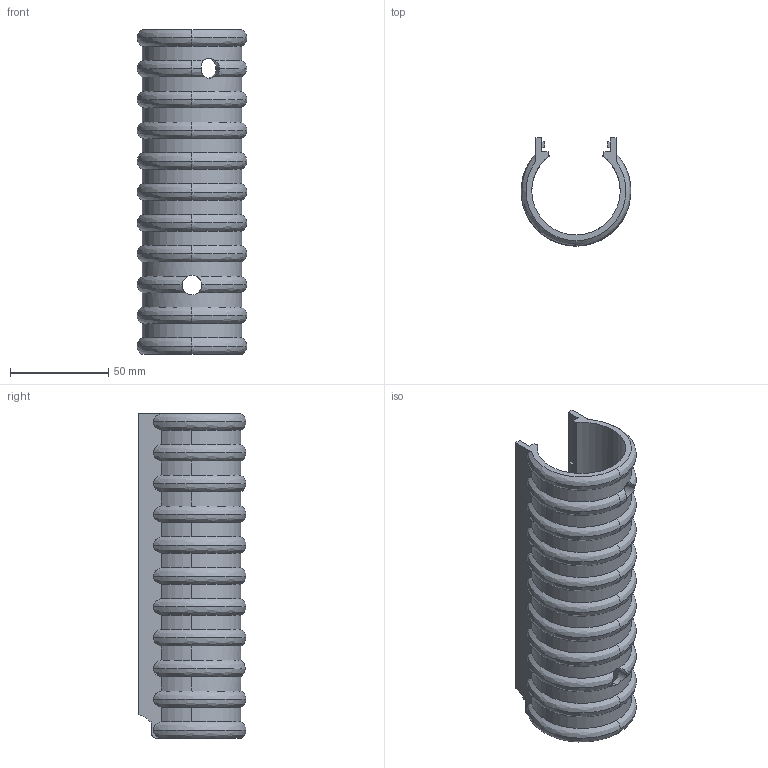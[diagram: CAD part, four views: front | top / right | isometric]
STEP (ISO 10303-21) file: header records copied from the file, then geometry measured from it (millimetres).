
FILE_DESCRIPTION (( 'STEP AP203' ), '1' );
FILE_NAME ('Handle Grip Rev 2.0.STEP', '2024-12-16T01:37:51', ( '' ), ( '' ), 'SwSTEP 2.0', 'SolidWorks 2021', '' );
FILE_SCHEMA (( 'CONFIG_CONTROL_DESIGN' ));
Length unit declared in the file: millimetre
Products named in the file (1): Handle Grip Rev 2.0
Bounding box: 55.76 x 54.86 x 165.1 mm (x, y, z)
Volume: 86945.1 mm3; surface area: 50439.5 mm2
Topology: 1 solids, 1 shells, 118 faces, 337 edges, 221 vertices
Faces by surface type: bspline 46, cylinder 43, plane 29
Entity records: 5341 total; most frequent: CARTESIAN_POINT 2357, ORIENTED_EDGE 674, DIRECTION 560, EDGE_CURVE 337, VERTEX_POINT 221, AXIS2_PLACEMENT_3D 219, CIRCLE 146, LINE 122
